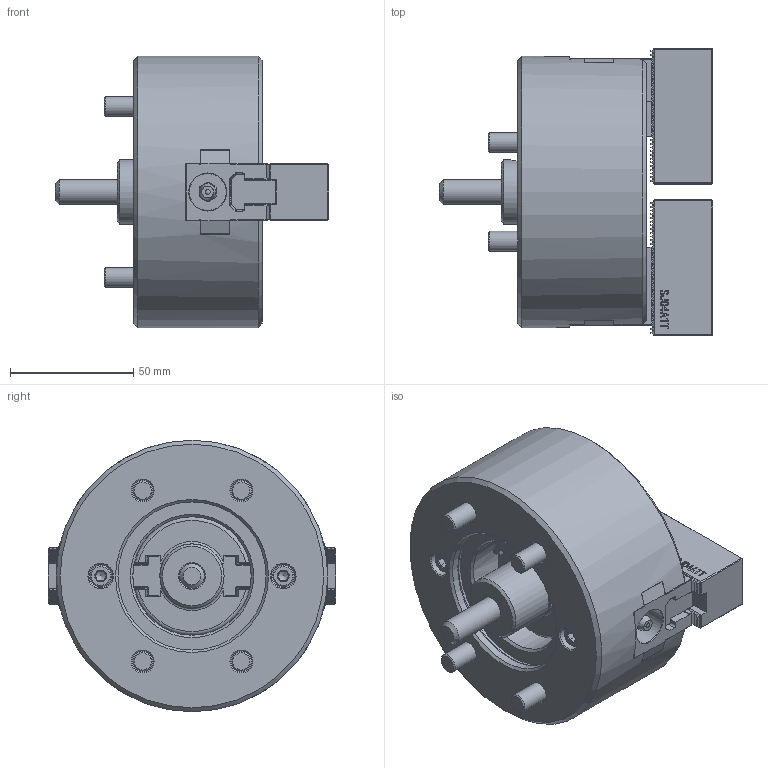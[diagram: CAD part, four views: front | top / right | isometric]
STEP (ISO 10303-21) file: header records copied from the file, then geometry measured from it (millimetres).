
FILE_DESCRIPTION (( 'STEP AP214' ), '1' );
FILE_NAME ('DT1_NT04_OUTSIDE_VIEW_HUL.STEP', '2024-05-14T00:47:51', ( '' ), ( '' ), 'SwSTEP 2.0', 'SolidWorks 2022', '' );
FILE_SCHEMA (( 'AUTOMOTIVE_DESIGN' ));
Length unit declared in the file: millimetre
Products named in the file (10): DT1_NT04_OUTSIDE_VIEW_HUL; DT1_NT04_COVER^DT1_NT04_ﾃﾞﾌｫﾙﾄ; DT1_NT04_M8x22^DT1_NT04_ﾃﾞﾌｫﾙﾄ; DT1_NT04_SOFTJAW^DT1_NT04_ﾃﾞﾌｫﾙﾄ; DT1_NT04_M3x8^DT1_NT04_ﾃﾞﾌｫﾙﾄ; DT1_NT04_TNUT^DT1_NT04_ﾃﾞﾌｫﾙﾄ; DT1_NT04_BASE^DT1_NT04_ﾃﾞﾌｫﾙﾄ; DT1_NT04_DN^DT1_NT04_ﾃﾞﾌｫﾙﾄ; DT1_NT04_DRAWSCREW^DT1_NT04_ﾃﾞﾌｫﾙﾄ; DT1_NT04_M8x55^DT1_NT04_ﾃﾞﾌｫﾙﾄ
Assembly tree (20 placements, depth 2):
  DT1_NT04_OUTSIDE_VIEW_HUL
    DT1_NT04_SOFTJAW^DT1_NT04_ﾃﾞﾌｫﾙﾄ  x2
    DT1_NT04_TNUT^DT1_NT04_ﾃﾞﾌｫﾙﾄ  x2
    DT1_NT04_COVER^DT1_NT04_ﾃﾞﾌｫﾙﾄ
    DT1_NT04_DRAWSCREW^DT1_NT04_ﾃﾞﾌｫﾙﾄ
    DT1_NT04_DN^DT1_NT04_ﾃﾞﾌｫﾙﾄ
    DT1_NT04_BASE^DT1_NT04_ﾃﾞﾌｫﾙﾄ
    DT1_NT04_M8x22^DT1_NT04_ﾃﾞﾌｫﾙﾄ  x4
    DT1_NT04_M8x55^DT1_NT04_ﾃﾞﾌｫﾙﾄ  x4
    DT1_NT04_M3x8^DT1_NT04_ﾃﾞﾌｫﾙﾄ  x4
Bounding box: 110.75 x 116.51 x 110 mm (x, y, z)
Volume: 514796.4 mm3; surface area: 106496.9 mm2
Topology: 20 solids, 22 shells, 2556 faces, 7159 edges, 4689 vertices
Faces by surface type: plane 1812, cylinder 413, bspline 170, cone 134, torus 25, sphere 2
Full cylindrical faces by diameter (mm): 2 x2, 2.5 x4, 2.693 x4, 3 x4, 3.2 x4, 5 x2, 6 x4, 6.3 x4, 6.8 x4, 7 x1, 8 x8, 8.5 x9, 8.72 x2, 9.5 x2, 10 x2, 11 x1, 13.27 x8, 13.5 x4, 14 x5, 14.5 x1, 14.6 x1, 15 x2, 26 x1, 48 x1, 60 x1, 61 x1, 110 x1
Entity records: 67060 total; most frequent: CARTESIAN_POINT 19157, ORIENTED_EDGE 10520, DIRECTION 8596, EDGE_CURVE 5260, VECTOR 4050, LINE 4050, VERTEX_POINT 3515, AXIS2_PLACEMENT_3D 2273
